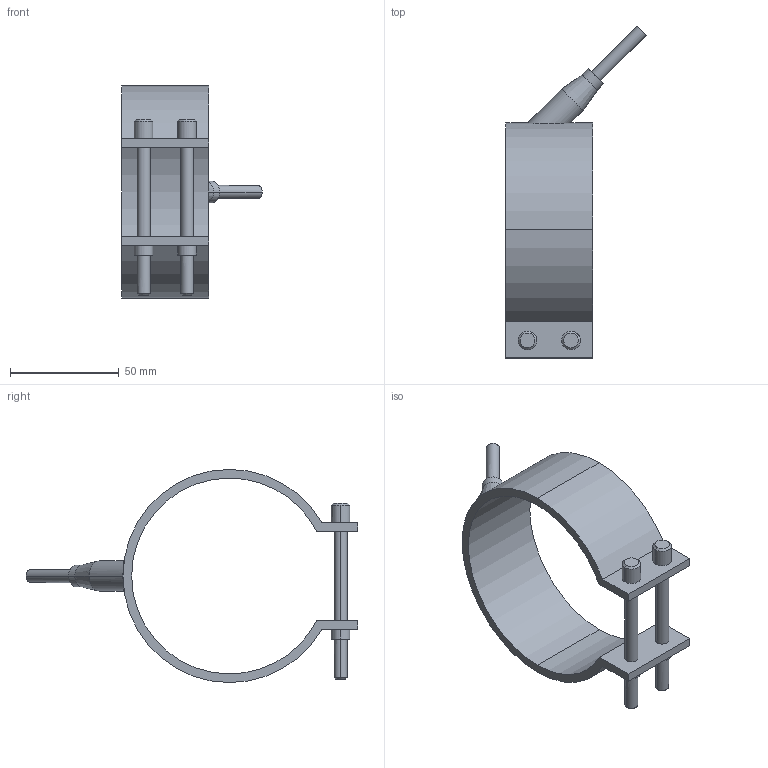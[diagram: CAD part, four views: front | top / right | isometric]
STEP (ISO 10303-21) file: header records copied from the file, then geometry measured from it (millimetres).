
FILE_DESCRIPTION(('CATIA V5 STEP Exchange'),'2;1');
FILE_NAME('C:\Users\Utente\Desktop\IO LAVORO\3D X SITO CF\X SITO\PLASTICA\RF1\29090040.stp','2021-03-29T17:59:10+00:00',('none'),('none'),'CATIA Version 5 Release 20 GA (IN-10)','CATIA V5 STEP AP203','none');
FILE_SCHEMA(('CONFIG_CONTROL_DESIGN'));
Length unit declared in the file: millimetre
Products named in the file (1): 29090040
Bounding box: 64.55 x 152.55 x 98 mm (x, y, z)
Volume: 55090.9 mm3; surface area: 29760.1 mm2
Topology: 1 solids, 1 shells, 54 faces, 123 edges, 79 vertices
Faces by surface type: cylinder 28, plane 16, cone 10
Entity records: 1734 total; most frequent: CARTESIAN_POINT 502, ORIENTED_EDGE 246, DIRECTION 213, EDGE_CURVE 123, AXIS2_PLACEMENT_3D 106, VERTEX_POINT 79, EDGE_LOOP 66, VECTOR 56
